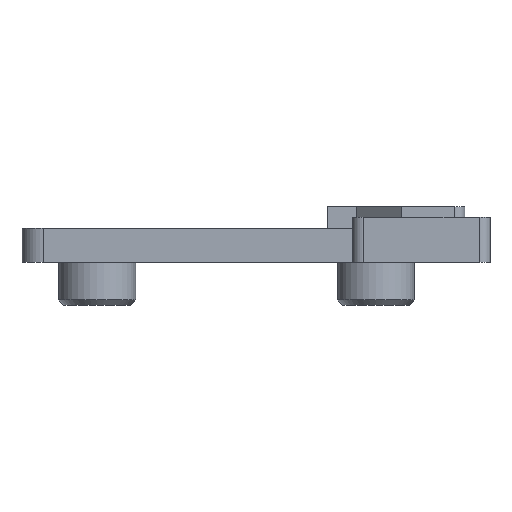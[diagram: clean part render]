
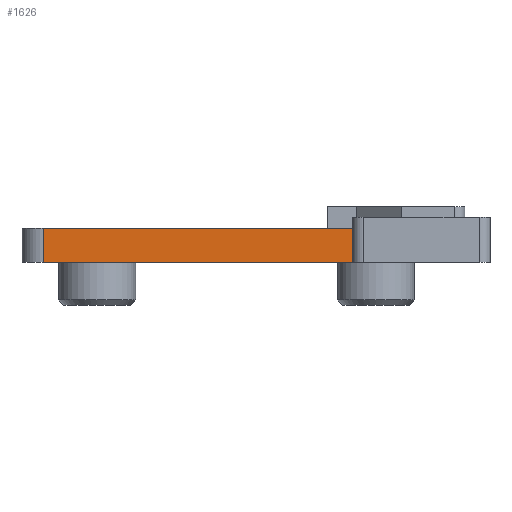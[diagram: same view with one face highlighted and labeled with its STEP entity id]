
A CAD part, front view. The second image highlights one B-rep face of the part: STEP entity #1626.
In plain terms, the highlighted planar face has unit normal (0, -1, 0).
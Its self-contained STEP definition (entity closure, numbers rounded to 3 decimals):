
#44 = PLANE('',#45);
#45 = AXIS2_PLACEMENT_3D('',#46,#47,#48);
#46 = CARTESIAN_POINT('',(19.,20.5,26.6));
#47 = DIRECTION('',(0.,0.,1.));
#48 = DIRECTION('',(1.,0.,0.));
#72 = CYLINDRICAL_SURFACE('',#73,1.);
#73 = AXIS2_PLACEMENT_3D('',#74,#75,#76);
#74 = CARTESIAN_POINT('',(20.,21.5,25.));
#75 = DIRECTION('',(0.,0.,1.));
#76 = DIRECTION('',(-1.,-0.,0.));
#100 = PLANE('',#101);
#101 = AXIS2_PLACEMENT_3D('',#102,#103,#104);
#102 = CARTESIAN_POINT('',(19.,20.5,25.));
#103 = DIRECTION('',(0.,0.,1.));
#104 = DIRECTION('',(1.,0.,0.));
#143 = VERTEX_POINT('',#144);
#144 = CARTESIAN_POINT('',(20.,20.5,26.6));
#166 = EDGE_CURVE('',#143,#167,#169,.T.);
#167 = VERTEX_POINT('',#168);
#168 = CARTESIAN_POINT('',(34.41,20.5,26.6));
#169 = SURFACE_CURVE('',#170,(#174,#181),.PCURVE_S1.);
#170 = LINE('',#171,#172);
#171 = CARTESIAN_POINT('',(19.,20.5,26.6));
#172 = VECTOR('',#173,1.);
#173 = DIRECTION('',(1.,0.,0.));
#174 = PCURVE('',#44,#175);
#175 = DEFINITIONAL_REPRESENTATION('',(#176),#180);
#176 = LINE('',#177,#178);
#177 = CARTESIAN_POINT('',(0.,0.));
#178 = VECTOR('',#179,1.);
#179 = DIRECTION('',(1.,0.));
#180 = ( GEOMETRIC_REPRESENTATION_CONTEXT(2) 
PARAMETRIC_REPRESENTATION_CONTEXT() REPRESENTATION_CONTEXT('2D SPACE',''
  ) );
#181 = PCURVE('',#182,#187);
#182 = PLANE('',#183);
#183 = AXIS2_PLACEMENT_3D('',#184,#185,#186);
#184 = CARTESIAN_POINT('',(19.,20.5,25.));
#185 = DIRECTION('',(0.,1.,0.));
#186 = DIRECTION('',(0.,0.,1.));
#187 = DEFINITIONAL_REPRESENTATION('',(#188),#192);
#188 = LINE('',#189,#190);
#189 = CARTESIAN_POINT('',(1.6,0.));
#190 = VECTOR('',#191,1.);
#191 = DIRECTION('',(0.,1.));
#192 = ( GEOMETRIC_REPRESENTATION_CONTEXT(2) 
PARAMETRIC_REPRESENTATION_CONTEXT() REPRESENTATION_CONTEXT('2D SPACE',''
  ) );
#210 = PLANE('',#211);
#211 = AXIS2_PLACEMENT_3D('',#212,#213,#214);
#212 = CARTESIAN_POINT('',(34.41,18.83,26.6));
#213 = DIRECTION('',(1.,0.,0.));
#214 = DIRECTION('',(0.,0.,1.));
#734 = VERTEX_POINT('',#735);
#735 = CARTESIAN_POINT('',(20.,20.5,25.));
#757 = EDGE_CURVE('',#734,#143,#758,.T.);
#758 = SURFACE_CURVE('',#759,(#763,#770),.PCURVE_S1.);
#759 = LINE('',#760,#761);
#760 = CARTESIAN_POINT('',(20.,20.5,25.));
#761 = VECTOR('',#762,1.);
#762 = DIRECTION('',(0.,0.,1.));
#763 = PCURVE('',#72,#764);
#764 = DEFINITIONAL_REPRESENTATION('',(#765),#769);
#765 = LINE('',#766,#767);
#766 = CARTESIAN_POINT('',(1.571,0.));
#767 = VECTOR('',#768,1.);
#768 = DIRECTION('',(0.,1.));
#769 = ( GEOMETRIC_REPRESENTATION_CONTEXT(2) 
PARAMETRIC_REPRESENTATION_CONTEXT() REPRESENTATION_CONTEXT('2D SPACE',''
  ) );
#770 = PCURVE('',#182,#771);
#771 = DEFINITIONAL_REPRESENTATION('',(#772),#776);
#772 = LINE('',#773,#774);
#773 = CARTESIAN_POINT('',(0.,1.));
#774 = VECTOR('',#775,1.);
#775 = DIRECTION('',(1.,0.));
#776 = ( GEOMETRIC_REPRESENTATION_CONTEXT(2) 
PARAMETRIC_REPRESENTATION_CONTEXT() REPRESENTATION_CONTEXT('2D SPACE',''
  ) );
#839 = EDGE_CURVE('',#734,#840,#842,.T.);
#840 = VERTEX_POINT('',#841);
#841 = CARTESIAN_POINT('',(34.41,20.5,25.));
#842 = SURFACE_CURVE('',#843,(#847,#854),.PCURVE_S1.);
#843 = LINE('',#844,#845);
#844 = CARTESIAN_POINT('',(19.,20.5,25.));
#845 = VECTOR('',#846,1.);
#846 = DIRECTION('',(1.,0.,0.));
#847 = PCURVE('',#100,#848);
#848 = DEFINITIONAL_REPRESENTATION('',(#849),#853);
#849 = LINE('',#850,#851);
#850 = CARTESIAN_POINT('',(0.,0.));
#851 = VECTOR('',#852,1.);
#852 = DIRECTION('',(1.,0.));
#853 = ( GEOMETRIC_REPRESENTATION_CONTEXT(2) 
PARAMETRIC_REPRESENTATION_CONTEXT() REPRESENTATION_CONTEXT('2D SPACE',''
  ) );
#854 = PCURVE('',#182,#855);
#855 = DEFINITIONAL_REPRESENTATION('',(#856),#860);
#856 = LINE('',#857,#858);
#857 = CARTESIAN_POINT('',(0.,0.));
#858 = VECTOR('',#859,1.);
#859 = DIRECTION('',(0.,1.));
#860 = ( GEOMETRIC_REPRESENTATION_CONTEXT(2) 
PARAMETRIC_REPRESENTATION_CONTEXT() REPRESENTATION_CONTEXT('2D SPACE',''
  ) );
#1626 = ADVANCED_FACE('',(#1627),#182,.F.);
#1627 = FACE_BOUND('',#1628,.F.);
#1628 = EDGE_LOOP('',(#1629,#1630,#1631,#1632));
#1629 = ORIENTED_EDGE('',*,*,#839,.F.);
#1630 = ORIENTED_EDGE('',*,*,#757,.T.);
#1631 = ORIENTED_EDGE('',*,*,#166,.T.);
#1632 = ORIENTED_EDGE('',*,*,#1633,.T.);
#1633 = EDGE_CURVE('',#167,#840,#1634,.T.);
#1634 = SURFACE_CURVE('',#1635,(#1639,#1646),.PCURVE_S1.);
#1635 = LINE('',#1636,#1637);
#1636 = CARTESIAN_POINT('',(34.41,20.5,25.));
#1637 = VECTOR('',#1638,1.);
#1638 = DIRECTION('',(0.,0.,-1.));
#1639 = PCURVE('',#182,#1640);
#1640 = DEFINITIONAL_REPRESENTATION('',(#1641),#1645);
#1641 = LINE('',#1642,#1643);
#1642 = CARTESIAN_POINT('',(0.,15.41));
#1643 = VECTOR('',#1644,1.);
#1644 = DIRECTION('',(-1.,0.));
#1645 = ( GEOMETRIC_REPRESENTATION_CONTEXT(2) 
PARAMETRIC_REPRESENTATION_CONTEXT() REPRESENTATION_CONTEXT('2D SPACE',''
  ) );
#1646 = PCURVE('',#210,#1647);
#1647 = DEFINITIONAL_REPRESENTATION('',(#1648),#1652);
#1648 = LINE('',#1649,#1650);
#1649 = CARTESIAN_POINT('',(-1.6,-1.67));
#1650 = VECTOR('',#1651,1.);
#1651 = DIRECTION('',(-1.,0.));
#1652 = ( GEOMETRIC_REPRESENTATION_CONTEXT(2) 
PARAMETRIC_REPRESENTATION_CONTEXT() REPRESENTATION_CONTEXT('2D SPACE',''
  ) );
